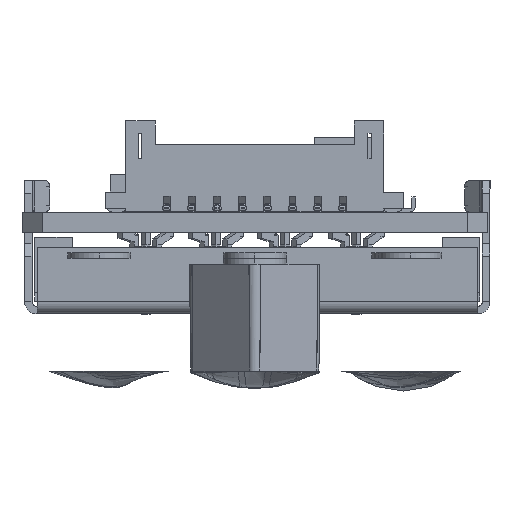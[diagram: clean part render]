
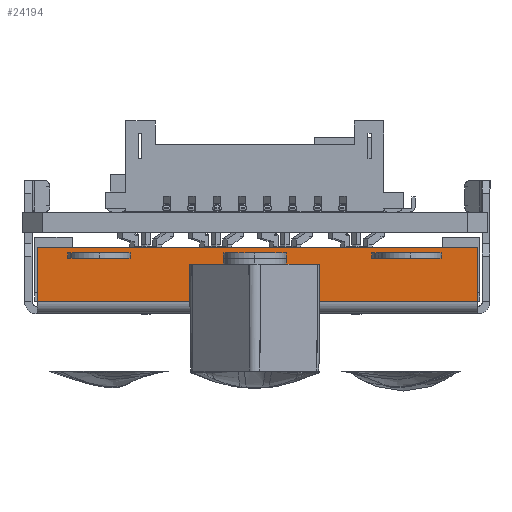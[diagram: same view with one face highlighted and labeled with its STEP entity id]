
A CAD part, left-side view. The second image highlights one B-rep face of the part: STEP entity #24194.
In plain terms, the highlighted planar face has unit normal (-1, 0, 0) as drawn and (1, 0, 0) by its records, which use the part's own axes.
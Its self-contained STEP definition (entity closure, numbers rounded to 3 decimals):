
#6280 = VECTOR ( 'NONE', #12109, 1000. ) ;
#7523 = VERTEX_POINT ( 'NONE', #160630 ) ;
#12109 = DIRECTION ( 'NONE',  ( 0., 0., -1. ) ) ;
#14193 = LINE ( 'NONE', #27513, #141506 ) ;
#20146 = VECTOR ( 'NONE', #55392, 1000. ) ;
#20349 = VERTEX_POINT ( 'NONE', #125628 ) ;
#24194 = ADVANCED_FACE ( 'NONE', ( #99921 ), #75978, .F. ) ;
#25063 = ORIENTED_EDGE ( 'NONE', *, *, #73871, .T. ) ;
#27513 = CARTESIAN_POINT ( 'NONE',  ( 49.475, 0., -5.3 ) ) ;
#32183 = CARTESIAN_POINT ( 'NONE',  ( 49.475, -17.5, -5.3 ) ) ;
#37923 = ORIENTED_EDGE ( 'NONE', *, *, #167167, .T. ) ;
#41896 = DIRECTION ( 'NONE',  ( 0., 1., 0. ) ) ;
#47661 = DIRECTION ( 'NONE',  ( 0., 0., 1. ) ) ;
#55326 = EDGE_LOOP ( 'NONE', ( #105090, #66041, #25063, #37923 ) ) ;
#55392 = DIRECTION ( 'NONE',  ( 0., 0., 1. ) ) ;
#66041 = ORIENTED_EDGE ( 'NONE', *, *, #101100, .T. ) ;
#73871 = EDGE_CURVE ( 'NONE', #139104, #163781, #14193, .T. ) ;
#75978 = PLANE ( 'NONE',  #160860 ) ;
#86632 = CARTESIAN_POINT ( 'NONE',  ( 49.475, 0., 0. ) ) ;
#87517 = DIRECTION ( 'NONE',  ( -1., 0., 0. ) ) ;
#89248 = EDGE_CURVE ( 'NONE', #7523, #20349, #162424, .T. ) ;
#89549 = CARTESIAN_POINT ( 'NONE',  ( 49.475, 17.5, -5.3 ) ) ;
#95791 = DIRECTION ( 'NONE',  ( 0., 1., 0. ) ) ;
#96661 = VECTOR ( 'NONE', #41896, 1000. ) ;
#99921 = FACE_OUTER_BOUND ( 'NONE', #55326, .T. ) ;
#101100 = EDGE_CURVE ( 'NONE', #7523, #139104, #173505, .T. ) ;
#105090 = ORIENTED_EDGE ( 'NONE', *, *, #89248, .F. ) ;
#121182 = CARTESIAN_POINT ( 'NONE',  ( 49.475, -17.5, 0. ) ) ;
#125628 = CARTESIAN_POINT ( 'NONE',  ( 49.475, 17.5, -1. ) ) ;
#139104 = VERTEX_POINT ( 'NONE', #32183 ) ;
#141506 = VECTOR ( 'NONE', #95791, 1000. ) ;
#146478 = CARTESIAN_POINT ( 'NONE',  ( 49.475, 17.5, -1. ) ) ;
#150172 = LINE ( 'NONE', #161776, #20146 ) ;
#160630 = CARTESIAN_POINT ( 'NONE',  ( 49.475, -17.5, -1. ) ) ;
#160860 = AXIS2_PLACEMENT_3D ( 'NONE', #86632, #87517, #47661 ) ;
#161776 = CARTESIAN_POINT ( 'NONE',  ( 49.475, 17.5, 0. ) ) ;
#162424 = LINE ( 'NONE', #146478, #96661 ) ;
#163781 = VERTEX_POINT ( 'NONE', #89549 ) ;
#167167 = EDGE_CURVE ( 'NONE', #163781, #20349, #150172, .T. ) ;
#173505 = LINE ( 'NONE', #121182, #6280 ) ;
